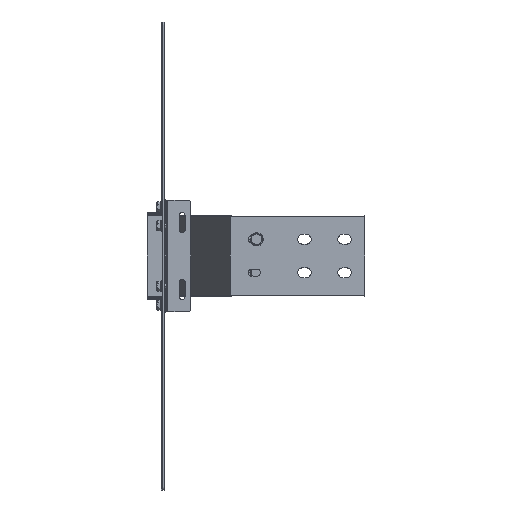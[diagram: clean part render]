
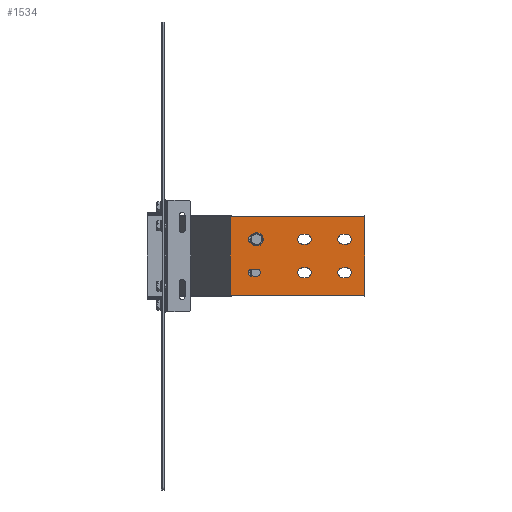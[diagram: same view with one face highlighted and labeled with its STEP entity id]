
A CAD part, front view. The second image highlights one B-rep face of the part: STEP entity #1534.
In plain terms, the highlighted planar face has unit normal (0, -1, 0).
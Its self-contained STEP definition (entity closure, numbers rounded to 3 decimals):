
#1290=AXIS2_PLACEMENT_3D('Circle Axis2P3D',#1288,#1289,$) ;
#1310=AXIS2_PLACEMENT_3D('Plane Axis2P3D',#1307,#1308,#1309) ;
#1348=AXIS2_PLACEMENT_3D('Circle Axis2P3D',#1346,#1347,$) ;
#1366=AXIS2_PLACEMENT_3D('Circle Axis2P3D',#1364,#1365,$) ;
#1382=AXIS2_PLACEMENT_3D('Circle Axis2P3D',#1380,#1381,$) ;
#1400=AXIS2_PLACEMENT_3D('Circle Axis2P3D',#1398,#1399,$) ;
#1416=AXIS2_PLACEMENT_3D('Circle Axis2P3D',#1414,#1415,$) ;
#1443=AXIS2_PLACEMENT_3D('Circle Axis2P3D',#1441,#1442,$) ;
#1457=AXIS2_PLACEMENT_3D('Circle Axis2P3D',#1455,#1456,$) ;
#1468=AXIS2_PLACEMENT_3D('Circle Axis2P3D',#1466,#1467,$) ;
#1484=AXIS2_PLACEMENT_3D('Circle Axis2P3D',#1482,#1483,$) ;
#1502=AXIS2_PLACEMENT_3D('Circle Axis2P3D',#1500,#1501,$) ;
#1518=AXIS2_PLACEMENT_3D('Circle Axis2P3D',#1516,#1517,$) ;
#1254=CARTESIAN_POINT('Vertex',(212.5,-216.65,32.5)) ;
#1257=CARTESIAN_POINT('Line Origine',(210.,-216.65,32.5)) ;
#1261=CARTESIAN_POINT('Vertex',(207.5,-216.65,32.5)) ;
#1288=CARTESIAN_POINT('Axis2P3D Location',(207.5,-216.65,25.)) ;
#1292=CARTESIAN_POINT('Vertex',(207.5,-216.65,17.5)) ;
#1307=CARTESIAN_POINT('Axis2P3D Location',(300.,-216.65,-58.35)) ;
#1312=CARTESIAN_POINT('Line Origine',(199.457,-216.65,-58.35)) ;
#1316=CARTESIAN_POINT('Vertex',(300.,-216.65,-58.35)) ;
#1318=CARTESIAN_POINT('Vertex',(98.914,-216.65,-58.35)) ;
#1321=CARTESIAN_POINT('Line Origine',(300.,-216.65,0.)) ;
#1325=CARTESIAN_POINT('Vertex',(300.,-216.65,58.35)) ;
#1328=CARTESIAN_POINT('Line Origine',(199.457,-216.65,58.35)) ;
#1332=CARTESIAN_POINT('Vertex',(98.914,-216.65,58.35)) ;
#1335=CARTESIAN_POINT('Line Origine',(98.914,-216.65,0.)) ;
#1346=CARTESIAN_POINT('Axis2P3D Location',(212.5,-216.65,25.)) ;
#1350=CARTESIAN_POINT('Vertex',(212.5,-216.65,17.5)) ;
#1353=CARTESIAN_POINT('Line Origine',(210.,-216.65,17.5)) ;
#1364=CARTESIAN_POINT('Axis2P3D Location',(272.5,-216.65,25.)) ;
#1368=CARTESIAN_POINT('Vertex',(272.5,-216.65,17.5)) ;
#1370=CARTESIAN_POINT('Vertex',(272.5,-216.65,32.5)) ;
#1373=CARTESIAN_POINT('Line Origine',(270.,-216.65,17.5)) ;
#1377=CARTESIAN_POINT('Vertex',(267.5,-216.65,17.5)) ;
#1380=CARTESIAN_POINT('Axis2P3D Location',(267.5,-216.65,25.)) ;
#1384=CARTESIAN_POINT('Vertex',(267.5,-216.65,32.5)) ;
#1387=CARTESIAN_POINT('Line Origine',(270.,-216.65,32.5)) ;
#1398=CARTESIAN_POINT('Axis2P3D Location',(207.5,-216.65,-25.)) ;
#1402=CARTESIAN_POINT('Vertex',(207.5,-216.65,-17.5)) ;
#1404=CARTESIAN_POINT('Vertex',(207.5,-216.65,-32.5)) ;
#1407=CARTESIAN_POINT('Line Origine',(210.,-216.65,-17.5)) ;
#1411=CARTESIAN_POINT('Vertex',(212.5,-216.65,-17.5)) ;
#1414=CARTESIAN_POINT('Axis2P3D Location',(212.5,-216.65,-25.)) ;
#1418=CARTESIAN_POINT('Vertex',(212.5,-216.65,-32.5)) ;
#1421=CARTESIAN_POINT('Line Origine',(210.,-216.65,-32.5)) ;
#1432=CARTESIAN_POINT('Line Origine',(270.,-216.65,-17.5)) ;
#1436=CARTESIAN_POINT('Vertex',(272.5,-216.65,-17.5)) ;
#1438=CARTESIAN_POINT('Vertex',(267.5,-216.65,-17.5)) ;
#1441=CARTESIAN_POINT('Axis2P3D Location',(272.5,-216.65,-25.)) ;
#1445=CARTESIAN_POINT('Vertex',(272.5,-216.65,-32.5)) ;
#1448=CARTESIAN_POINT('Line Origine',(270.,-216.65,-32.5)) ;
#1452=CARTESIAN_POINT('Vertex',(267.5,-216.65,-32.5)) ;
#1455=CARTESIAN_POINT('Axis2P3D Location',(267.5,-216.65,-25.)) ;
#1466=CARTESIAN_POINT('Axis2P3D Location',(138.5,-216.65,25.)) ;
#1470=CARTESIAN_POINT('Vertex',(138.5,-216.65,19.5)) ;
#1472=CARTESIAN_POINT('Vertex',(138.5,-216.65,30.5)) ;
#1475=CARTESIAN_POINT('Line Origine',(135.,-216.65,19.5)) ;
#1479=CARTESIAN_POINT('Vertex',(131.5,-216.65,19.5)) ;
#1482=CARTESIAN_POINT('Axis2P3D Location',(131.5,-216.65,25.)) ;
#1486=CARTESIAN_POINT('Vertex',(131.5,-216.65,30.5)) ;
#1489=CARTESIAN_POINT('Line Origine',(135.,-216.65,30.5)) ;
#1500=CARTESIAN_POINT('Axis2P3D Location',(131.5,-216.65,-25.)) ;
#1504=CARTESIAN_POINT('Vertex',(131.5,-216.65,-19.5)) ;
#1506=CARTESIAN_POINT('Vertex',(131.5,-216.65,-30.5)) ;
#1509=CARTESIAN_POINT('Line Origine',(135.,-216.65,-19.5)) ;
#1513=CARTESIAN_POINT('Vertex',(138.5,-216.65,-19.5)) ;
#1516=CARTESIAN_POINT('Axis2P3D Location',(138.5,-216.65,-25.)) ;
#1520=CARTESIAN_POINT('Vertex',(138.5,-216.65,-30.5)) ;
#1523=CARTESIAN_POINT('Line Origine',(135.,-216.65,-30.5)) ;
#1258=DIRECTION('Vector Direction',(1.,0.,0.)) ;
#1289=DIRECTION('Axis2P3D Direction',(0.,-1.,0.)) ;
#1308=DIRECTION('Axis2P3D Direction',(0.,-1.,0.)) ;
#1309=DIRECTION('Axis2P3D XDirection',(0.,0.,1.)) ;
#1313=DIRECTION('Vector Direction',(-1.,0.,0.)) ;
#1322=DIRECTION('Vector Direction',(0.,0.,1.)) ;
#1329=DIRECTION('Vector Direction',(-1.,0.,0.)) ;
#1336=DIRECTION('Vector Direction',(0.,0.,1.)) ;
#1347=DIRECTION('Axis2P3D Direction',(0.,-1.,0.)) ;
#1354=DIRECTION('Vector Direction',(-1.,0.,0.)) ;
#1365=DIRECTION('Axis2P3D Direction',(0.,-1.,0.)) ;
#1374=DIRECTION('Vector Direction',(1.,0.,0.)) ;
#1381=DIRECTION('Axis2P3D Direction',(0.,-1.,0.)) ;
#1388=DIRECTION('Vector Direction',(-1.,0.,0.)) ;
#1399=DIRECTION('Axis2P3D Direction',(0.,-1.,0.)) ;
#1408=DIRECTION('Vector Direction',(-1.,0.,0.)) ;
#1415=DIRECTION('Axis2P3D Direction',(0.,-1.,0.)) ;
#1422=DIRECTION('Vector Direction',(1.,0.,0.)) ;
#1433=DIRECTION('Vector Direction',(1.,0.,0.)) ;
#1442=DIRECTION('Axis2P3D Direction',(0.,-1.,0.)) ;
#1449=DIRECTION('Vector Direction',(-1.,0.,0.)) ;
#1456=DIRECTION('Axis2P3D Direction',(0.,-1.,0.)) ;
#1467=DIRECTION('Axis2P3D Direction',(0.,-1.,0.)) ;
#1476=DIRECTION('Vector Direction',(-1.,0.,0.)) ;
#1483=DIRECTION('Axis2P3D Direction',(0.,-1.,0.)) ;
#1490=DIRECTION('Vector Direction',(1.,0.,0.)) ;
#1501=DIRECTION('Axis2P3D Direction',(0.,-1.,0.)) ;
#1510=DIRECTION('Vector Direction',(-1.,0.,0.)) ;
#1517=DIRECTION('Axis2P3D Direction',(0.,-1.,0.)) ;
#1524=DIRECTION('Vector Direction',(1.,0.,0.)) ;
#1259=VECTOR('Line Direction',#1258,1.) ;
#1314=VECTOR('Line Direction',#1313,1.) ;
#1323=VECTOR('Line Direction',#1322,1.) ;
#1330=VECTOR('Line Direction',#1329,1.) ;
#1337=VECTOR('Line Direction',#1336,1.) ;
#1355=VECTOR('Line Direction',#1354,1.) ;
#1375=VECTOR('Line Direction',#1374,1.) ;
#1389=VECTOR('Line Direction',#1388,1.) ;
#1409=VECTOR('Line Direction',#1408,1.) ;
#1423=VECTOR('Line Direction',#1422,1.) ;
#1434=VECTOR('Line Direction',#1433,1.) ;
#1450=VECTOR('Line Direction',#1449,1.) ;
#1477=VECTOR('Line Direction',#1476,1.) ;
#1491=VECTOR('Line Direction',#1490,1.) ;
#1511=VECTOR('Line Direction',#1510,1.) ;
#1525=VECTOR('Line Direction',#1524,1.) ;
#1341=ORIENTED_EDGE('',*,*,#1320,.F.) ;
#1342=ORIENTED_EDGE('',*,*,#1327,.F.) ;
#1343=ORIENTED_EDGE('',*,*,#1334,.T.) ;
#1344=ORIENTED_EDGE('',*,*,#1339,.F.) ;
#1359=ORIENTED_EDGE('',*,*,#1352,.F.) ;
#1360=ORIENTED_EDGE('',*,*,#1357,.F.) ;
#1361=ORIENTED_EDGE('',*,*,#1294,.F.) ;
#1362=ORIENTED_EDGE('',*,*,#1263,.F.) ;
#1393=ORIENTED_EDGE('',*,*,#1372,.F.) ;
#1394=ORIENTED_EDGE('',*,*,#1379,.F.) ;
#1395=ORIENTED_EDGE('',*,*,#1386,.F.) ;
#1396=ORIENTED_EDGE('',*,*,#1391,.F.) ;
#1427=ORIENTED_EDGE('',*,*,#1406,.F.) ;
#1428=ORIENTED_EDGE('',*,*,#1413,.F.) ;
#1429=ORIENTED_EDGE('',*,*,#1420,.F.) ;
#1430=ORIENTED_EDGE('',*,*,#1425,.F.) ;
#1461=ORIENTED_EDGE('',*,*,#1440,.F.) ;
#1462=ORIENTED_EDGE('',*,*,#1447,.F.) ;
#1463=ORIENTED_EDGE('',*,*,#1454,.F.) ;
#1464=ORIENTED_EDGE('',*,*,#1459,.F.) ;
#1495=ORIENTED_EDGE('',*,*,#1474,.F.) ;
#1496=ORIENTED_EDGE('',*,*,#1481,.F.) ;
#1497=ORIENTED_EDGE('',*,*,#1488,.F.) ;
#1498=ORIENTED_EDGE('',*,*,#1493,.F.) ;
#1529=ORIENTED_EDGE('',*,*,#1508,.F.) ;
#1530=ORIENTED_EDGE('',*,*,#1515,.F.) ;
#1531=ORIENTED_EDGE('',*,*,#1522,.F.) ;
#1532=ORIENTED_EDGE('',*,*,#1527,.F.) ;
#1363=FACE_BOUND('',#1358,.T.) ;
#1397=FACE_BOUND('',#1392,.T.) ;
#1431=FACE_BOUND('',#1426,.T.) ;
#1465=FACE_BOUND('',#1460,.T.) ;
#1499=FACE_BOUND('',#1494,.T.) ;
#1533=FACE_BOUND('',#1528,.T.) ;
#1534=ADVANCED_FACE('N',(#1345,#1363,#1397,#1431,#1465,#1499,#1533),#1311,.T.) ;
#1291=CIRCLE('generated circle',#1290,7.5) ;
#1349=CIRCLE('generated circle',#1348,7.5) ;
#1367=CIRCLE('generated circle',#1366,7.5) ;
#1383=CIRCLE('generated circle',#1382,7.5) ;
#1401=CIRCLE('generated circle',#1400,7.5) ;
#1417=CIRCLE('generated circle',#1416,7.5) ;
#1444=CIRCLE('generated circle',#1443,7.5) ;
#1458=CIRCLE('generated circle',#1457,7.5) ;
#1469=CIRCLE('generated circle',#1468,5.5) ;
#1485=CIRCLE('generated circle',#1484,5.5) ;
#1503=CIRCLE('generated circle',#1502,5.5) ;
#1519=CIRCLE('generated circle',#1518,5.5) ;
#1263=EDGE_CURVE('',#1255,#1262,#1260,.F.) ;
#1294=EDGE_CURVE('',#1262,#1293,#1291,.T.) ;
#1320=EDGE_CURVE('',#1317,#1319,#1315,.T.) ;
#1327=EDGE_CURVE('',#1326,#1317,#1324,.F.) ;
#1334=EDGE_CURVE('',#1326,#1333,#1331,.T.) ;
#1339=EDGE_CURVE('',#1319,#1333,#1338,.T.) ;
#1352=EDGE_CURVE('',#1351,#1255,#1349,.T.) ;
#1357=EDGE_CURVE('',#1293,#1351,#1356,.F.) ;
#1372=EDGE_CURVE('',#1369,#1371,#1367,.T.) ;
#1379=EDGE_CURVE('',#1378,#1369,#1376,.T.) ;
#1386=EDGE_CURVE('',#1385,#1378,#1383,.T.) ;
#1391=EDGE_CURVE('',#1371,#1385,#1390,.T.) ;
#1406=EDGE_CURVE('',#1403,#1405,#1401,.T.) ;
#1413=EDGE_CURVE('',#1412,#1403,#1410,.T.) ;
#1420=EDGE_CURVE('',#1419,#1412,#1417,.T.) ;
#1425=EDGE_CURVE('',#1405,#1419,#1424,.T.) ;
#1440=EDGE_CURVE('',#1437,#1439,#1435,.F.) ;
#1447=EDGE_CURVE('',#1446,#1437,#1444,.T.) ;
#1454=EDGE_CURVE('',#1453,#1446,#1451,.F.) ;
#1459=EDGE_CURVE('',#1439,#1453,#1458,.T.) ;
#1474=EDGE_CURVE('',#1471,#1473,#1469,.T.) ;
#1481=EDGE_CURVE('',#1480,#1471,#1478,.F.) ;
#1488=EDGE_CURVE('',#1487,#1480,#1485,.T.) ;
#1493=EDGE_CURVE('',#1473,#1487,#1492,.F.) ;
#1508=EDGE_CURVE('',#1505,#1507,#1503,.T.) ;
#1515=EDGE_CURVE('',#1514,#1505,#1512,.T.) ;
#1522=EDGE_CURVE('',#1521,#1514,#1519,.T.) ;
#1527=EDGE_CURVE('',#1507,#1521,#1526,.T.) ;
#1340=EDGE_LOOP('',(#1341,#1342,#1343,#1344)) ;
#1358=EDGE_LOOP('',(#1359,#1360,#1361,#1362)) ;
#1392=EDGE_LOOP('',(#1393,#1394,#1395,#1396)) ;
#1426=EDGE_LOOP('',(#1427,#1428,#1429,#1430)) ;
#1460=EDGE_LOOP('',(#1461,#1462,#1463,#1464)) ;
#1494=EDGE_LOOP('',(#1495,#1496,#1497,#1498)) ;
#1528=EDGE_LOOP('',(#1529,#1530,#1531,#1532)) ;
#1345=FACE_OUTER_BOUND('',#1340,.T.) ;
#1260=LINE('Line',#1257,#1259) ;
#1315=LINE('Line',#1312,#1314) ;
#1324=LINE('Line',#1321,#1323) ;
#1331=LINE('Line',#1328,#1330) ;
#1338=LINE('Line',#1335,#1337) ;
#1356=LINE('Line',#1353,#1355) ;
#1376=LINE('Line',#1373,#1375) ;
#1390=LINE('Line',#1387,#1389) ;
#1410=LINE('Line',#1407,#1409) ;
#1424=LINE('Line',#1421,#1423) ;
#1435=LINE('Line',#1432,#1434) ;
#1451=LINE('Line',#1448,#1450) ;
#1478=LINE('Line',#1475,#1477) ;
#1492=LINE('Line',#1489,#1491) ;
#1512=LINE('Line',#1509,#1511) ;
#1526=LINE('Line',#1523,#1525) ;
#1311=PLANE('',#1310) ;
#1255=VERTEX_POINT('',#1254) ;
#1262=VERTEX_POINT('',#1261) ;
#1293=VERTEX_POINT('',#1292) ;
#1317=VERTEX_POINT('',#1316) ;
#1319=VERTEX_POINT('',#1318) ;
#1326=VERTEX_POINT('',#1325) ;
#1333=VERTEX_POINT('',#1332) ;
#1351=VERTEX_POINT('',#1350) ;
#1369=VERTEX_POINT('',#1368) ;
#1371=VERTEX_POINT('',#1370) ;
#1378=VERTEX_POINT('',#1377) ;
#1385=VERTEX_POINT('',#1384) ;
#1403=VERTEX_POINT('',#1402) ;
#1405=VERTEX_POINT('',#1404) ;
#1412=VERTEX_POINT('',#1411) ;
#1419=VERTEX_POINT('',#1418) ;
#1437=VERTEX_POINT('',#1436) ;
#1439=VERTEX_POINT('',#1438) ;
#1446=VERTEX_POINT('',#1445) ;
#1453=VERTEX_POINT('',#1452) ;
#1471=VERTEX_POINT('',#1470) ;
#1473=VERTEX_POINT('',#1472) ;
#1480=VERTEX_POINT('',#1479) ;
#1487=VERTEX_POINT('',#1486) ;
#1505=VERTEX_POINT('',#1504) ;
#1507=VERTEX_POINT('',#1506) ;
#1514=VERTEX_POINT('',#1513) ;
#1521=VERTEX_POINT('',#1520) ;
